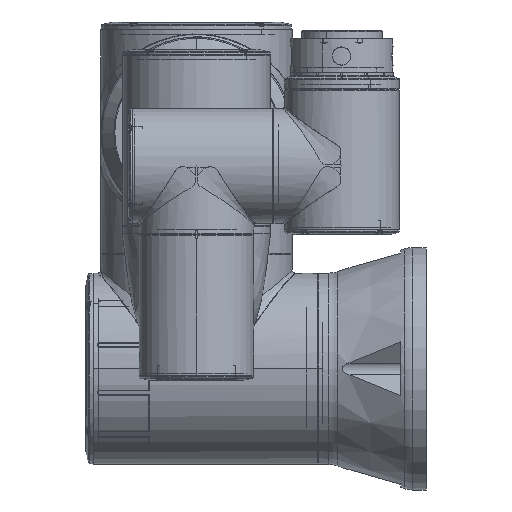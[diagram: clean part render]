
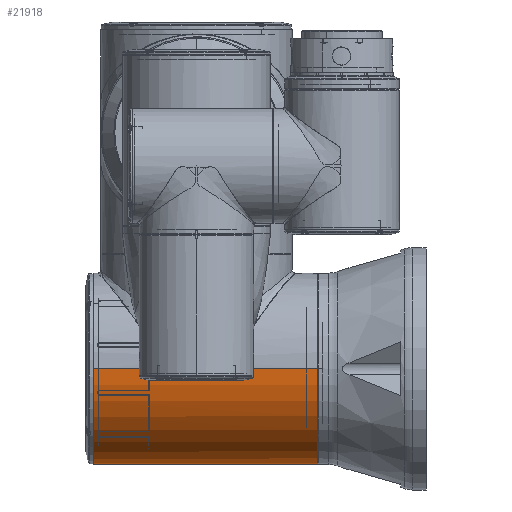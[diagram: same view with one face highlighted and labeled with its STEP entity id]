
A CAD part, left-side view. The second image highlights one B-rep face of the part: STEP entity #21918.
In plain terms, the highlighted cylindrical face has radius 75 mm (diameter 150 mm), a partial arc.
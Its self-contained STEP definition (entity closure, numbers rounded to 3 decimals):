
#691 = ORIENTED_EDGE ( 'NONE', *, *, #27680, .F. ) ;
#2427 = CARTESIAN_POINT ( 'NONE',  ( -0.75, 52.75, 74.996 ) ) ;
#3274 = ORIENTED_EDGE ( 'NONE', *, *, #29175, .T. ) ;
#3577 = ORIENTED_EDGE ( 'NONE', *, *, #58533, .F. ) ;
#4241 = EDGE_CURVE ( 'NONE', #98269, #81865, #96384, .T. ) ;
#5696 = CARTESIAN_POINT ( 'NONE',  ( 0.75, -120., 74.996 ) ) ;
#5925 = CARTESIAN_POINT ( 'NONE',  ( 0.731, 52.555, 74.996 ) ) ;
#6210 = CARTESIAN_POINT ( 'NONE',  ( 0.75, 55.9, 74.996 ) ) ;
#7739 = CARTESIAN_POINT ( 'NONE',  ( 0., -120., 0. ) ) ;
#9222 = EDGE_LOOP ( 'NONE', ( #68360, #3274, #93039, #24014, #72058, #13016, #81102, #38579, #65876, #691, #3577 ) ) ;
#9871 = CARTESIAN_POINT ( 'NONE',  ( -0.195, 52.019, 75. ) ) ;
#11372 = DIRECTION ( 'NONE',  ( 0., 1., 0. ) ) ;
#11554 = CARTESIAN_POINT ( 'NONE',  ( -75., -39., 0. ) ) ;
#11621 = DIRECTION ( 'NONE',  ( 0., 1., 0. ) ) ;
#13016 = ORIENTED_EDGE ( 'NONE', *, *, #47120, .F. ) ;
#13357 = CARTESIAN_POINT ( 'NONE',  ( 0.75, 52.75, 74.996 ) ) ;
#15026 = VECTOR ( 'NONE', #74026, 1000. ) ;
#17053 = AXIS2_PLACEMENT_3D ( 'NONE', #17280, #63137, #47254 ) ;
#17280 = CARTESIAN_POINT ( 'NONE',  ( 0., 55.9, 0. ) ) ;
#18753 = VERTEX_POINT ( 'NONE', #64028 ) ;
#20235 = CARTESIAN_POINT ( 'NONE',  ( -0.75, -120., 74.996 ) ) ;
#21288 = CIRCLE ( 'NONE', #17053, 75. ) ;
#21918 = ADVANCED_FACE ( 'NONE', ( #89115 ), #97507, .T. ) ;
#22509 = LINE ( 'NONE', #20235, #99799 ) ;
#23985 = VERTEX_POINT ( 'NONE', #54156 ) ;
#24014 = ORIENTED_EDGE ( 'NONE', *, *, #92797, .T. ) ;
#24267 = VECTOR ( 'NONE', #64870, 1000. ) ;
#24495 = DIRECTION ( 'NONE',  ( -1., 0., 0. ) ) ;
#25498 = DIRECTION ( 'NONE',  ( 0., 1., 0. ) ) ;
#25657 = CARTESIAN_POINT ( 'NONE',  ( -0.461, 52.15, 74.999 ) ) ;
#25720 = CIRCLE ( 'NONE', #41555, 75. ) ;
#26115 = CARTESIAN_POINT ( 'NONE',  ( 75., -39., 0. ) ) ;
#26311 = CARTESIAN_POINT ( 'NONE',  ( -0.75, 52.75, 74.996 ) ) ;
#27680 = EDGE_CURVE ( 'NONE', #18753, #76997, #93461, .T. ) ;
#27791 = CARTESIAN_POINT ( 'NONE',  ( 75., -120., 0. ) ) ;
#27795 = CARTESIAN_POINT ( 'NONE',  ( 0.655, 52.371, 74.997 ) ) ;
#29175 = EDGE_CURVE ( 'NONE', #23985, #91815, #25720, .T. ) ;
#31340 = EDGE_CURVE ( 'NONE', #91815, #89198, #43682, .T. ) ;
#31423 = VERTEX_POINT ( 'NONE', #88225 ) ;
#33075 = CARTESIAN_POINT ( 'NONE',  ( -0.73, 52.554, 74.996 ) ) ;
#35740 = LINE ( 'NONE', #5696, #57482 ) ;
#38579 = ORIENTED_EDGE ( 'NONE', *, *, #4241, .T. ) ;
#39080 = LINE ( 'NONE', #50716, #15026 ) ;
#40559 = VERTEX_POINT ( 'NONE', #6210 ) ;
#41170 = LINE ( 'NONE', #27791, #54426 ) ;
#41401 = CARTESIAN_POINT ( 'NONE',  ( 75., -119.6, 0. ) ) ;
#41497 = CARTESIAN_POINT ( 'NONE',  ( -0.599, 52.289, 74.998 ) ) ;
#41555 = AXIS2_PLACEMENT_3D ( 'NONE', #63980, #25498, #24495 ) ;
#42820 = DIRECTION ( 'NONE',  ( 0., -1., 0. ) ) ;
#43354 = DIRECTION ( 'NONE',  ( 0., 0., 1. ) ) ;
#43682 = LINE ( 'NONE', #80746, #24267 ) ;
#45687 = DIRECTION ( 'NONE',  ( 0., 1., 0. ) ) ;
#46148 = EDGE_CURVE ( 'NONE', #40559, #59930, #21288, .T. ) ;
#47120 = EDGE_CURVE ( 'NONE', #31423, #40559, #35740, .T. ) ;
#47254 = DIRECTION ( 'NONE',  ( 0., 0., 1. ) ) ;
#47928 = CARTESIAN_POINT ( 'NONE',  ( -0.379, 52.095, 74.999 ) ) ;
#48607 = CARTESIAN_POINT ( 'NONE',  ( -0.75, 52.65, 74.996 ) ) ;
#50716 = CARTESIAN_POINT ( 'NONE',  ( -75., -120., 0. ) ) ;
#52513 = AXIS2_PLACEMENT_3D ( 'NONE', #65624, #11372, #43354 ) ;
#52569 = VECTOR ( 'NONE', #11621, 1000. ) ;
#54156 = CARTESIAN_POINT ( 'NONE',  ( -75., -119.6, 0. ) ) ;
#54426 = VECTOR ( 'NONE', #90291, 1000. ) ;
#55431 = AXIS2_PLACEMENT_3D ( 'NONE', #7739, #77173, #61008 ) ;
#57482 = VECTOR ( 'NONE', #45687, 1000. ) ;
#58533 = EDGE_CURVE ( 'NONE', #98126, #18753, #96083, .T. ) ;
#58821 = CARTESIAN_POINT ( 'NONE',  ( 0.381, 52.097, 74.999 ) ) ;
#59416 = CARTESIAN_POINT ( 'NONE',  ( 0., 52., 75. ) ) ;
#59930 = VERTEX_POINT ( 'NONE', #64269 ) ;
#61008 = DIRECTION ( 'NONE',  ( 1., 0., 0. ) ) ;
#63137 = DIRECTION ( 'NONE',  ( 0., 1., 0. ) ) ;
#63803 = CARTESIAN_POINT ( 'NONE',  ( -0.654, 52.37, 74.997 ) ) ;
#63980 = CARTESIAN_POINT ( 'NONE',  ( 0., -119.6, 0. ) ) ;
#64028 = CARTESIAN_POINT ( 'NONE',  ( -75., 55.9, 0. ) ) ;
#64269 = CARTESIAN_POINT ( 'NONE',  ( 75., 55.9, 0. ) ) ;
#64870 = DIRECTION ( 'NONE',  ( 0., 1., 0. ) ) ;
#65213 = CARTESIAN_POINT ( 'NONE',  ( -75., -120., 0. ) ) ;
#65624 = CARTESIAN_POINT ( 'NONE',  ( 0., 55.9, 0. ) ) ;
#65876 = ORIENTED_EDGE ( 'NONE', *, *, #75837, .F. ) ;
#68360 = ORIENTED_EDGE ( 'NONE', *, *, #78629, .F. ) ;
#71537 = CARTESIAN_POINT ( 'NONE',  ( -0.75, 55.9, 74.996 ) ) ;
#72058 = ORIENTED_EDGE ( 'NONE', *, *, #46148, .F. ) ;
#74026 = DIRECTION ( 'NONE',  ( 0., 1., 0. ) ) ;
#74039 = CARTESIAN_POINT ( 'NONE',  ( 0.75, 52.649, 74.996 ) ) ;
#75837 = EDGE_CURVE ( 'NONE', #76997, #81865, #22509, .T. ) ;
#75994 = CARTESIAN_POINT ( 'NONE',  ( 0.195, 52.019, 75. ) ) ;
#76997 = VERTEX_POINT ( 'NONE', #71537 ) ;
#77173 = DIRECTION ( 'NONE',  ( 0., 1., 0. ) ) ;
#78629 = EDGE_CURVE ( 'NONE', #23985, #98126, #39080, .T. ) ;
#79309 = CARTESIAN_POINT ( 'NONE',  ( 0., 52., 75. ) ) ;
#79976 = CARTESIAN_POINT ( 'NONE',  ( -0.099, 52., 75. ) ) ;
#80298 = EDGE_CURVE ( 'NONE', #31423, #98269, #98730, .T. ) ;
#80746 = CARTESIAN_POINT ( 'NONE',  ( 75., -120., 0. ) ) ;
#81102 = ORIENTED_EDGE ( 'NONE', *, *, #80298, .T. ) ;
#81794 = CARTESIAN_POINT ( 'NONE',  ( 0.6, 52.289, 74.998 ) ) ;
#81865 = VERTEX_POINT ( 'NONE', #26311 ) ;
#88225 = CARTESIAN_POINT ( 'NONE',  ( 0.75, 52.75, 74.996 ) ) ;
#89115 = FACE_OUTER_BOUND ( 'NONE', #9222, .T. ) ;
#89198 = VERTEX_POINT ( 'NONE', #26115 ) ;
#89630 = CARTESIAN_POINT ( 'NONE',  ( 0.461, 52.15, 74.999 ) ) ;
#90291 = DIRECTION ( 'NONE',  ( 0., 1., 0. ) ) ;
#91268 = CARTESIAN_POINT ( 'NONE',  ( 0.099, 52., 75. ) ) ;
#91815 = VERTEX_POINT ( 'NONE', #41401 ) ;
#92797 = EDGE_CURVE ( 'NONE', #89198, #59930, #41170, .T. ) ;
#93039 = ORIENTED_EDGE ( 'NONE', *, *, #31340, .T. ) ;
#93461 = CIRCLE ( 'NONE', #52513, 75. ) ;
#96083 = LINE ( 'NONE', #65213, #52569 ) ;
#96384 = B_SPLINE_CURVE_WITH_KNOTS ( 'NONE', 3,
 ( #79309, #79976, #9871, #47928, #25657, #41497, #63803, #33075, #48607, #2427 ),
 .UNSPECIFIED., .F., .F.,
 ( 4, 2, 2, 2, 4 ),
 ( 0., 0.25, 0.5, 0.75, 1. ),
 .UNSPECIFIED. ) ;
#97507 = CYLINDRICAL_SURFACE ( 'NONE', #55431, 75. ) ;
#98126 = VERTEX_POINT ( 'NONE', #11554 ) ;
#98269 = VERTEX_POINT ( 'NONE', #59416 ) ;
#98730 = B_SPLINE_CURVE_WITH_KNOTS ( 'NONE', 3,
 ( #13357, #74039, #5925, #27795, #81794, #89630, #58821, #75994, #91268, #99288 ),
 .UNSPECIFIED., .F., .F.,
 ( 4, 2, 2, 2, 4 ),
 ( 0., 0.25, 0.5, 0.75, 1. ),
 .UNSPECIFIED. ) ;
#99288 = CARTESIAN_POINT ( 'NONE',  ( 0., 52., 75. ) ) ;
#99799 = VECTOR ( 'NONE', #42820, 1000. ) ;
